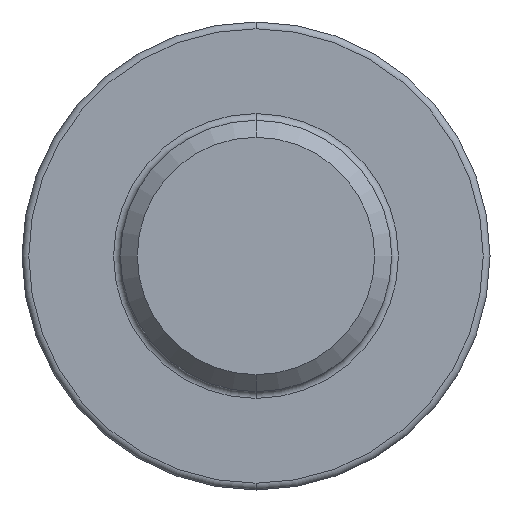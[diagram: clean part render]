
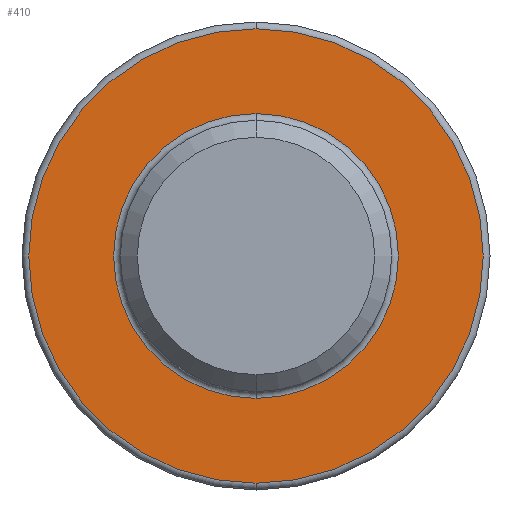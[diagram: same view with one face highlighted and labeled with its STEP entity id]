
A CAD part, front view. The second image highlights one B-rep face of the part: STEP entity #410.
In plain terms, the highlighted planar face has unit normal (0, -1, 0).
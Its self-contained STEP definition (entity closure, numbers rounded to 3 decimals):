
#13 = DIRECTION ( 'NONE',  ( 0., 1., 0. ) ) ;
#91 = DIRECTION ( 'NONE',  ( 0., 0., 1. ) ) ;
#127 = CIRCLE ( 'NONE', #367, 6.7 ) ;
#143 = VERTEX_POINT ( 'NONE', #197 ) ;
#161 = DIRECTION ( 'NONE',  ( 0., 1., 0. ) ) ;
#162 = CARTESIAN_POINT ( 'NONE',  ( 0., -4.2, 4.2 ) ) ;
#184 = DIRECTION ( 'NONE',  ( 0., 0., 1. ) ) ;
#197 = CARTESIAN_POINT ( 'NONE',  ( 0., -4.2, -6.7 ) ) ;
#224 = CARTESIAN_POINT ( 'NONE',  ( 0., -4.2, 0. ) ) ;
#225 = ORIENTED_EDGE ( 'NONE', *, *, #807, .T. ) ;
#228 = CIRCLE ( 'NONE', #661, 4.2 ) ;
#236 = DIRECTION ( 'NONE',  ( 0., 1., 0. ) ) ;
#245 = CARTESIAN_POINT ( 'NONE',  ( 4., -4.2, 0. ) ) ;
#257 = CIRCLE ( 'NONE', #771, 6.7 ) ;
#308 = EDGE_CURVE ( 'NONE', #772, #143, #127, .T. ) ;
#311 = PLANE ( 'NONE',  #858 ) ;
#340 = AXIS2_PLACEMENT_3D ( 'NONE', #426, #161, #91 ) ;
#342 = ORIENTED_EDGE ( 'NONE', *, *, #578, .T. ) ;
#367 = AXIS2_PLACEMENT_3D ( 'NONE', #224, #805, #757 ) ;
#381 = CARTESIAN_POINT ( 'NONE',  ( 0., -4.2, 6.7 ) ) ;
#387 = CARTESIAN_POINT ( 'NONE',  ( 0., -4.2, 0. ) ) ;
#392 = CARTESIAN_POINT ( 'NONE',  ( 0., -4.2, 0. ) ) ;
#410 = ADVANCED_FACE ( 'NONE', ( #702, #773 ), #311, .F. ) ;
#426 = CARTESIAN_POINT ( 'NONE',  ( 0., -4.2, 0. ) ) ;
#431 = DIRECTION ( 'NONE',  ( 0., 0., 1. ) ) ;
#454 = CARTESIAN_POINT ( 'NONE',  ( 0., -4.2, -4.2 ) ) ;
#478 = VERTEX_POINT ( 'NONE', #162 ) ;
#526 = EDGE_LOOP ( 'NONE', ( #861, #225 ) ) ;
#578 = EDGE_CURVE ( 'NONE', #820, #478, #228, .T. ) ;
#583 = DIRECTION ( 'NONE',  ( 0., -1., 0. ) ) ;
#656 = EDGE_CURVE ( 'NONE', #478, #820, #718, .T. ) ;
#661 = AXIS2_PLACEMENT_3D ( 'NONE', #387, #13, #808 ) ;
#664 = EDGE_LOOP ( 'NONE', ( #794, #342 ) ) ;
#702 = FACE_BOUND ( 'NONE', #664, .T. ) ;
#718 = CIRCLE ( 'NONE', #340, 4.2 ) ;
#757 = DIRECTION ( 'NONE',  ( 0., 0., 1. ) ) ;
#771 = AXIS2_PLACEMENT_3D ( 'NONE', #392, #583, #184 ) ;
#772 = VERTEX_POINT ( 'NONE', #381 ) ;
#773 = FACE_OUTER_BOUND ( 'NONE', #526, .T. ) ;
#794 = ORIENTED_EDGE ( 'NONE', *, *, #656, .T. ) ;
#805 = DIRECTION ( 'NONE',  ( 0., -1., 0. ) ) ;
#807 = EDGE_CURVE ( 'NONE', #143, #772, #257, .T. ) ;
#808 = DIRECTION ( 'NONE',  ( 0., 0., 1. ) ) ;
#820 = VERTEX_POINT ( 'NONE', #454 ) ;
#858 = AXIS2_PLACEMENT_3D ( 'NONE', #245, #236, #431 ) ;
#861 = ORIENTED_EDGE ( 'NONE', *, *, #308, .T. ) ;
